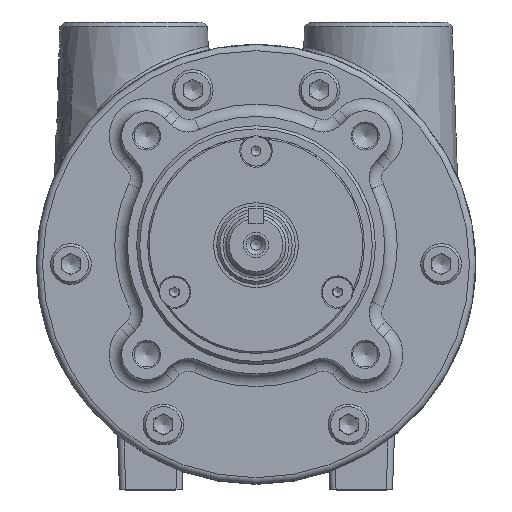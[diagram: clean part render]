
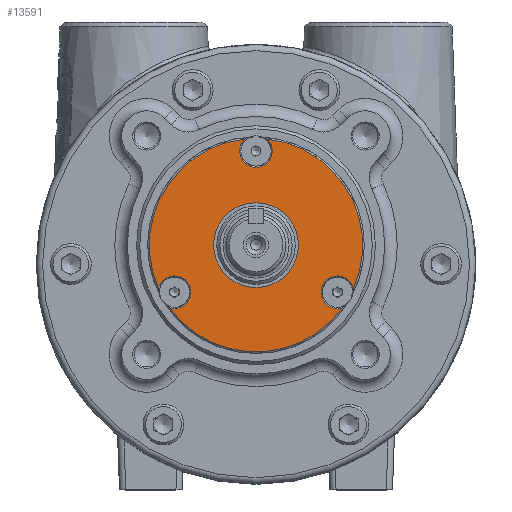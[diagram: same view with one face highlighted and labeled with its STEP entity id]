
A CAD part, top view. The second image highlights one B-rep face of the part: STEP entity #13591.
In plain terms, the highlighted planar face has unit normal (0, 0, 1).
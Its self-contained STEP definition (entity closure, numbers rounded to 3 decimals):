
#576 = CARTESIAN_POINT ( 'NONE',  ( 0., 6., 84.15 ) ) ;
#1171 = EDGE_CURVE ( 'NONE', #29210, #9825, #24499, .T. ) ;
#2588 = VERTEX_POINT ( 'NONE', #25316 ) ;
#3385 = AXIS2_PLACEMENT_3D ( 'NONE', #36587, #30490, #13512 ) ;
#3766 = DIRECTION ( 'NONE',  ( 0., 0., 1. ) ) ;
#3796 = EDGE_CURVE ( 'NONE', #2588, #39309, #40542, .T. ) ;
#5128 = ORIENTED_EDGE ( 'NONE', *, *, #1171, .F. ) ;
#5199 = CIRCLE ( 'NONE', #21225, 5.2 ) ;
#5605 = AXIS2_PLACEMENT_3D ( 'NONE', #13619, #3766, #10303 ) ;
#6416 = ORIENTED_EDGE ( 'NONE', *, *, #34722, .F. ) ;
#9441 = EDGE_CURVE ( 'NONE', #24744, #24744, #21210, .T. ) ;
#9472 = CARTESIAN_POINT ( 'NONE',  ( -25.981, -9., 84.15 ) ) ;
#9718 = ORIENTED_EDGE ( 'NONE', *, *, #15146, .F. ) ;
#9825 = VERTEX_POINT ( 'NONE', #17529 ) ;
#10204 = PLANE ( 'NONE',  #3385 ) ;
#10262 = ORIENTED_EDGE ( 'NONE', *, *, #39992, .F. ) ;
#10303 = DIRECTION ( 'NONE',  ( 1., 0., 0. ) ) ;
#10606 = AXIS2_PLACEMENT_3D ( 'NONE', #14846, #18772, #11996 ) ;
#11072 = CARTESIAN_POINT ( 'NONE',  ( -3.532, 39.816, 84.15 ) ) ;
#11996 = DIRECTION ( 'NONE',  ( 0., 1., 0. ) ) ;
#13512 = DIRECTION ( 'NONE',  ( -1., 0., 0. ) ) ;
#13591 = ADVANCED_FACE ( 'NONE', ( #33544, #30075 ), #10204, .F. ) ;
#13619 = CARTESIAN_POINT ( 'NONE',  ( 25.981, -9., 84.15 ) ) ;
#14524 = DIRECTION ( 'NONE',  ( -1., 0., 0. ) ) ;
#14846 = CARTESIAN_POINT ( 'NONE',  ( 0., 6., 84.15 ) ) ;
#15146 = EDGE_CURVE ( 'NONE', #9825, #21778, #23704, .T. ) ;
#15330 = DIRECTION ( 'NONE',  ( 0., 0., 1. ) ) ;
#16766 = CIRCLE ( 'NONE', #5605, 5.2 ) ;
#17529 = CARTESIAN_POINT ( 'NONE',  ( 3.532, 39.816, 84.15 ) ) ;
#18622 = DIRECTION ( 'NONE',  ( 1., 0., 0. ) ) ;
#18772 = DIRECTION ( 'NONE',  ( 0., 0., -1. ) ) ;
#18997 = EDGE_LOOP ( 'NONE', ( #31047, #10262, #21304, #6416, #9718, #5128 ) ) ;
#19079 = CARTESIAN_POINT ( 'NONE',  ( 0., 36., 84.15 ) ) ;
#20550 = ORIENTED_EDGE ( 'NONE', *, *, #9441, .F. ) ;
#20693 = DIRECTION ( 'NONE',  ( 1., 0., 0. ) ) ;
#21210 = CIRCLE ( 'NONE', #32343, 13.5 ) ;
#21225 = AXIS2_PLACEMENT_3D ( 'NONE', #9472, #38875, #26083 ) ;
#21304 = ORIENTED_EDGE ( 'NONE', *, *, #3796, .F. ) ;
#21778 = VERTEX_POINT ( 'NONE', #42363 ) ;
#23704 = CIRCLE ( 'NONE', #42476, 34. ) ;
#23963 = DIRECTION ( 'NONE',  ( 0., 0., 1. ) ) ;
#24499 = CIRCLE ( 'NONE', #39797, 5.2 ) ;
#24604 = CARTESIAN_POINT ( 'NONE',  ( -27.519, -13.967, 84.15 ) ) ;
#24744 = VERTEX_POINT ( 'NONE', #40836 ) ;
#25316 = CARTESIAN_POINT ( 'NONE',  ( 27.519, -13.967, 84.15 ) ) ;
#26083 = DIRECTION ( 'NONE',  ( 1., 0., 0. ) ) ;
#26657 = DIRECTION ( 'NONE',  ( -1., 0., 0. ) ) ;
#26865 = DIRECTION ( 'NONE',  ( 0., 0., -1. ) ) ;
#29210 = VERTEX_POINT ( 'NONE', #11072 ) ;
#30075 = FACE_BOUND ( 'NONE', #39416, .T. ) ;
#30490 = DIRECTION ( 'NONE',  ( 0., 0., -1. ) ) ;
#30950 = AXIS2_PLACEMENT_3D ( 'NONE', #39679, #26865, #26657 ) ;
#31047 = ORIENTED_EDGE ( 'NONE', *, *, #39032, .F. ) ;
#31105 = DIRECTION ( 'NONE',  ( 0., 0., -1. ) ) ;
#32343 = AXIS2_PLACEMENT_3D ( 'NONE', #576, #23963, #20693 ) ;
#33544 = FACE_OUTER_BOUND ( 'NONE', #18997, .T. ) ;
#34722 = EDGE_CURVE ( 'NONE', #21778, #2588, #16766, .T. ) ;
#35403 = VERTEX_POINT ( 'NONE', #41916 ) ;
#36587 = CARTESIAN_POINT ( 'NONE',  ( 0., 19.5, 84.15 ) ) ;
#37843 = CARTESIAN_POINT ( 'NONE',  ( 0., 6., 84.15 ) ) ;
#38585 = CIRCLE ( 'NONE', #30950, 34. ) ;
#38875 = DIRECTION ( 'NONE',  ( 0., 0., 1. ) ) ;
#39032 = EDGE_CURVE ( 'NONE', #35403, #29210, #38585, .T. ) ;
#39309 = VERTEX_POINT ( 'NONE', #24604 ) ;
#39416 = EDGE_LOOP ( 'NONE', ( #20550 ) ) ;
#39679 = CARTESIAN_POINT ( 'NONE',  ( 0., 6., 84.15 ) ) ;
#39797 = AXIS2_PLACEMENT_3D ( 'NONE', #19079, #15330, #18622 ) ;
#39992 = EDGE_CURVE ( 'NONE', #39309, #35403, #5199, .T. ) ;
#40542 = CIRCLE ( 'NONE', #10606, 34. ) ;
#40836 = CARTESIAN_POINT ( 'NONE',  ( 13.5, 6., 84.15 ) ) ;
#41916 = CARTESIAN_POINT ( 'NONE',  ( -31.052, -7.849, 84.15 ) ) ;
#42363 = CARTESIAN_POINT ( 'NONE',  ( 31.052, -7.849, 84.15 ) ) ;
#42476 = AXIS2_PLACEMENT_3D ( 'NONE', #37843, #31105, #14524 ) ;
